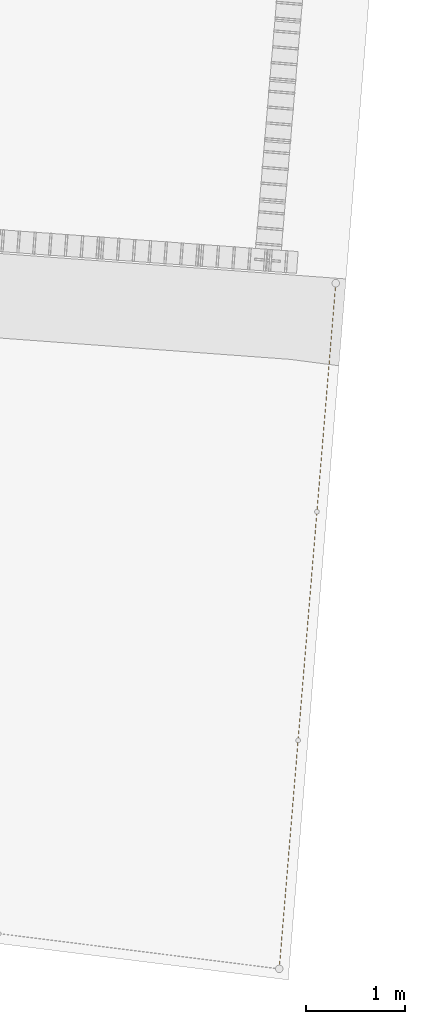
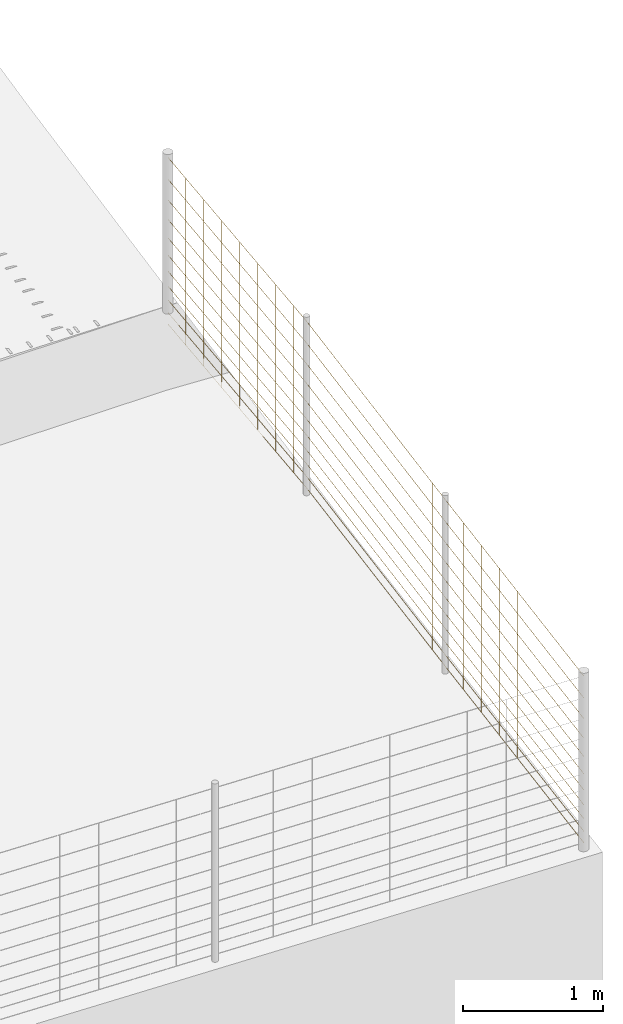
# Not in any storey, part 50 of 72: 3 railings.
"""IFC4 model written with IfcOpenShell, lengths in metres."""

from ifc_helpers import new_model, si_unit, direction, frame, origin_with_axes, place, context, subcontext, project, spatial, polygons, material, element, save


model = new_model("IFC4")

# Units and contexts
model_context = context("Model", 3, precision=1e-05, world=origin_with_axes(), true_north=direction((0.0, 1.0)))
body_context = subcontext(model_context, "Body", "Model", "MODEL_VIEW")
ifc_project = project(units=[si_unit("VOLUMEUNIT", "CUBIC_METRE"), si_unit("LENGTHUNIT", "METRE"), si_unit("AREAUNIT", "SQUARE_METRE")], contexts=[model_context])

# Site
site_placement = place(None, origin_with_axes())
site = spatial("IfcSite", under=ifc_project, at=site_placement, Name="Lares · Rua das Mercês · artigo 4771")

# Railings
ifc_material = material(Name="Aço galvanizado / Stahl verzinkt", Category="steel")
railing_1_placement = place(site_placement, frame((0.0, 0.0, 0.0), z_axis=(0.0, 0.0, 1.0), x_axis=(1.0, -1.03767253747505e-17, 0.0)))
element("IfcRailing", 1, at=railing_1_placement, inside=site, material=ifc_material, Name="Vedação · rede ovelheira 1.001", ObjectType="SHEEP_WIRE_FENCE", PredefinedType="USERDEFINED", context=body_context, shape_type="Tessellation", body=[
    polygons([(83.1766969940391, 0.466070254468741, 16.024139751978), (83.1781898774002, 0.465922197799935, 16.0226399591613), (83.1796868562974, 0.465823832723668, 16.024139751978), (83.1781939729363, 0.465971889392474, 16.0256395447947), (82.9867703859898, -1.83833026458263, 16.0625741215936), (82.9882632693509, -1.83847832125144, 16.0610743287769), (82.9897602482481, -1.83857668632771, 16.0625741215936), (82.988267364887, -1.8384286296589, 16.0640739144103), (83.1766969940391, 0.466070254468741, 16.124139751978), (83.1781898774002, 0.465922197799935, 16.1226399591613), (83.1796868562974, 0.465823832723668, 16.124139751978), (83.1781939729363, 0.465971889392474, 16.1256395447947), (82.9867703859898, -1.83833026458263, 16.1625741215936), (82.9882632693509, -1.83847832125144, 16.1610743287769), (82.9897602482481, -1.83857668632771, 16.1625741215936), (82.988267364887, -1.8384286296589, 16.1640739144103), (83.1766969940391, 0.466070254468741, 16.234139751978), (83.1781898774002, 0.465922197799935, 16.2326399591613), (83.1796868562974, 0.465823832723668, 16.234139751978), (83.1781939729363, 0.465971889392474, 16.2356395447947), (82.9867703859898, -1.83833026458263, 16.2725741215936), (82.9882632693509, -1.83847832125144, 16.2710743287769), (82.9897602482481, -1.83857668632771, 16.2725741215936), (82.988267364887, -1.8384286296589, 16.2740739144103), (83.1766969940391, 0.466070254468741, 16.354139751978), (83.1781898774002, 0.465922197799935, 16.3526399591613), (83.1796868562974, 0.465823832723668, 16.354139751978), (83.1781939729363, 0.465971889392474, 16.3556395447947), (82.9867703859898, -1.83833026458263, 16.3925741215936), (82.9882632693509, -1.83847832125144, 16.3910743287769), (82.9897602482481, -1.83857668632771, 16.3925741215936), (82.988267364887, -1.8384286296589, 16.3940739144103), (83.1766969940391, 0.466070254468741, 16.484139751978), (83.1781898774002, 0.465922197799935, 16.4826399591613), (83.1796868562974, 0.465823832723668, 16.484139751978), (83.1781939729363, 0.465971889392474, 16.4856395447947), (82.9867703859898, -1.83833026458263, 16.5225741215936), (82.9882632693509, -1.83847832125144, 16.5210743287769), (82.9897602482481, -1.83857668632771, 16.5225741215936), (82.988267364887, -1.8384286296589, 16.5240739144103), (83.1766969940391, 0.466070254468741, 16.624139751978), (83.1781898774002, 0.465922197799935, 16.6226399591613), (83.1796868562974, 0.465823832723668, 16.624139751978), (83.1781939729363, 0.465971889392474, 16.6256395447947), (82.9867703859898, -1.83833026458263, 16.6625741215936), (82.9882632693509, -1.83847832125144, 16.6610743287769), (82.9897602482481, -1.83857668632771, 16.6625741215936), (82.988267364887, -1.8384286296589, 16.6640739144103), (83.1766969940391, 0.466070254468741, 16.774139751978), (83.1781898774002, 0.465922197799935, 16.7726399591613), (83.1796868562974, 0.465823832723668, 16.774139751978), (83.1781939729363, 0.465971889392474, 16.7756395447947), (82.9867703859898, -1.83833026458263, 16.8125741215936), (82.9882632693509, -1.83847832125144, 16.8110743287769), (82.9897602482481, -1.83857668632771, 16.8125741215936), (82.988267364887, -1.8384286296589, 16.8140739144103), (83.1766969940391, 0.466070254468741, 16.934139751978), (83.1781898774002, 0.465922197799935, 16.9326399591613), (83.1796868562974, 0.465823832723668, 16.934139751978), (83.1781939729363, 0.465971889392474, 16.9356395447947), (82.9867703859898, -1.83833026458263, 16.9725741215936), (82.9882632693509, -1.83847832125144, 16.9710743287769), (82.9897602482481, -1.83857668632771, 16.9725741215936), (82.988267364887, -1.8384286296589, 16.9740739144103), (83.1766969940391, 0.466070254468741, 17.104139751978), (83.1781898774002, 0.465922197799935, 17.1026399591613), (83.1796868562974, 0.465823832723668, 17.104139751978), (83.1781939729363, 0.465971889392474, 17.1056395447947), (82.9867703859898, -1.83833026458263, 17.1425741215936), (82.9882632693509, -1.83847832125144, 17.1410743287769), (82.9897602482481, -1.83857668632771, 17.1425741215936), (82.988267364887, -1.8384286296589, 17.1440739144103), (83.1766969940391, 0.466070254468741, 17.284139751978), (83.1781898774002, 0.465922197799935, 17.2826399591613), (83.1796868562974, 0.465823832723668, 17.284139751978), (83.1781939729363, 0.465971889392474, 17.2856395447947), (82.9867703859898, -1.83833026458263, 17.3225741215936), (82.9882632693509, -1.83847832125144, 17.3210743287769), (82.9897602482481, -1.83857668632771, 17.3225741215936), (82.988267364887, -1.8384286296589, 17.3240739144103), (83.1766969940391, 0.466070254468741, 17.474139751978), (83.1781898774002, 0.465922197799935, 17.4726399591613), (83.1796868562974, 0.465823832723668, 17.474139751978), (83.1781939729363, 0.465971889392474, 17.4756395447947), (82.9867703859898, -1.83833026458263, 17.5125741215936), (82.9882632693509, -1.83847832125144, 17.5110743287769), (82.9897602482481, -1.83857668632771, 17.5125741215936), (82.988267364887, -1.8384286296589, 17.5140739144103), (83.153549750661, 0.168460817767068, 16.0291264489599), (83.152049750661, 0.166960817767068, 16.0291264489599), (83.153549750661, 0.165460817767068, 16.0291264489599), (83.155049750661, 0.166960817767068, 16.0291264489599), (83.153549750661, 0.168460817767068, 17.4791264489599), (83.152049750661, 0.166960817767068, 17.4791264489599), (83.153549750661, 0.165460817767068, 17.4791264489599), (83.155049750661, 0.166960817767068, 17.4791264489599), (83.1289075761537, -0.130525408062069, 16.0341131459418), (83.1274075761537, -0.132025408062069, 16.0341131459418), (83.1289075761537, -0.133525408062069, 16.0341131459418), (83.1304075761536, -0.132025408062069, 16.0341131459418), (83.1289075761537, -0.130525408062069, 17.4841131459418), (83.1274075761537, -0.132025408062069, 17.4841131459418), (83.1289075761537, -0.133525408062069, 17.4841131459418), (83.1304075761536, -0.132025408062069, 17.4841131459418), (83.1042654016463, -0.429511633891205, 16.0390998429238), (83.1027654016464, -0.431011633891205, 16.0390998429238), (83.1042654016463, -0.432511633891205, 16.0390998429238), (83.1057654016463, -0.431011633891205, 16.0390998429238), (83.1042654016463, -0.429511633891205, 17.4890998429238), (83.1027654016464, -0.431011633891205, 17.4890998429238), (83.1042654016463, -0.432511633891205, 17.4890998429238), (83.1057654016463, -0.431011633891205, 17.4890998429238), (83.079623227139, -0.728497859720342, 16.0440865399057), (83.078123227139, -0.729997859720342, 16.0440865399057), (83.079623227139, -0.731497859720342, 16.0440865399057), (83.081123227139, -0.729997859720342, 16.0440865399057), (83.079623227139, -0.728497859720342, 17.4940865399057), (83.078123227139, -0.729997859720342, 17.4940865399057), (83.079623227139, -0.731497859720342, 17.4940865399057), (83.081123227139, -0.729997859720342, 17.4940865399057), (83.0549810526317, -1.02748408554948, 16.0490732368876), (83.0534810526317, -1.02898408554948, 16.0490732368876), (83.0549810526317, -1.03048408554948, 16.0490732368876), (83.0564810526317, -1.02898408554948, 16.0490732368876), (83.0549810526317, -1.02748408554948, 17.4990732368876), (83.0534810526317, -1.02898408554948, 17.4990732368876), (83.0549810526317, -1.03048408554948, 17.4990732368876), (83.0564810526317, -1.02898408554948, 17.4990732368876), (83.0303388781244, -1.32647031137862, 16.0540599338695), (83.0288388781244, -1.32797031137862, 16.0540599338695), (83.0303388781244, -1.32947031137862, 16.0540599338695), (83.0318388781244, -1.32797031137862, 16.0540599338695), (83.0303388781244, -1.32647031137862, 17.5040599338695), (83.0288388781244, -1.32797031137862, 17.5040599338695), (83.0303388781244, -1.32947031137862, 17.5040599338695), (83.0318388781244, -1.32797031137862, 17.5040599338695), (83.0056967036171, -1.62545653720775, 16.0590466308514), (83.0041967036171, -1.62695653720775, 16.0590466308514), (83.0056967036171, -1.62845653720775, 16.0590466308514), (83.0071967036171, -1.62695653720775, 16.0590466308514), (83.0056967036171, -1.62545653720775, 17.5090466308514), (83.0041967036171, -1.62695653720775, 17.5090466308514), (83.0056967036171, -1.62845653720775, 17.5090466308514), (83.0071967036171, -1.62695653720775, 17.5090466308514)], [[[4, 3, 2, 1]], [[5, 6, 7, 8]], [[1, 2, 6, 5]], [[2, 3, 7, 6]], [[3, 4, 8, 7]], [[4, 1, 5, 8]], [[12, 11, 10, 9]], [[13, 14, 15, 16]], [[9, 10, 14, 13]], [[10, 11, 15, 14]], [[11, 12, 16, 15]], [[12, 9, 13, 16]], [[20, 19, 18, 17]], [[21, 22, 23, 24]], [[17, 18, 22, 21]], [[18, 19, 23, 22]], [[19, 20, 24, 23]], [[20, 17, 21, 24]], [[28, 27, 26, 25]], [[29, 30, 31, 32]], [[25, 26, 30, 29]], [[26, 27, 31, 30]], [[27, 28, 32, 31]], [[28, 25, 29, 32]], [[36, 35, 34, 33]], [[37, 38, 39, 40]], [[33, 34, 38, 37]], [[34, 35, 39, 38]], [[35, 36, 40, 39]], [[36, 33, 37, 40]], [[44, 43, 42, 41]], [[45, 46, 47, 48]], [[41, 42, 46, 45]], [[42, 43, 47, 46]], [[43, 44, 48, 47]], [[44, 41, 45, 48]], [[52, 51, 50, 49]], [[53, 54, 55, 56]], [[49, 50, 54, 53]], [[50, 51, 55, 54]], [[51, 52, 56, 55]], [[52, 49, 53, 56]], [[60, 59, 58, 57]], [[61, 62, 63, 64]], [[57, 58, 62, 61]], [[58, 59, 63, 62]], [[59, 60, 64, 63]], [[60, 57, 61, 64]], [[68, 67, 66, 65]], [[69, 70, 71, 72]], [[65, 66, 70, 69]], [[66, 67, 71, 70]], [[67, 68, 72, 71]], [[68, 65, 69, 72]], [[76, 75, 74, 73]], [[77, 78, 79, 80]], [[73, 74, 78, 77]], [[74, 75, 79, 78]], [[75, 76, 80, 79]], [[76, 73, 77, 80]], [[84, 83, 82, 81]], [[85, 86, 87, 88]], [[81, 82, 86, 85]], [[82, 83, 87, 86]], [[83, 84, 88, 87]], [[84, 81, 85, 88]], [[92, 91, 90, 89]], [[93, 94, 95, 96]], [[89, 90, 94, 93]], [[90, 91, 95, 94]], [[91, 92, 96, 95]], [[92, 89, 93, 96]], [[100, 99, 98, 97]], [[101, 102, 103, 104]], [[97, 98, 102, 101]], [[98, 99, 103, 102]], [[99, 100, 104, 103]], [[100, 97, 101, 104]], [[108, 107, 106, 105]], [[109, 110, 111, 112]], [[105, 106, 110, 109]], [[106, 107, 111, 110]], [[107, 108, 112, 111]], [[108, 105, 109, 112]], [[116, 115, 114, 113]], [[117, 118, 119, 120]], [[113, 114, 118, 117]], [[114, 115, 119, 118]], [[115, 116, 120, 119]], [[116, 113, 117, 120]], [[124, 123, 122, 121]], [[125, 126, 127, 128]], [[121, 122, 126, 125]], [[122, 123, 127, 126]], [[123, 124, 128, 127]], [[124, 121, 125, 128]], [[132, 131, 130, 129]], [[133, 134, 135, 136]], [[129, 130, 134, 133]], [[130, 131, 135, 134]], [[131, 132, 136, 135]], [[132, 129, 133, 136]], [[140, 139, 138, 137]], [[141, 142, 143, 144]], [[137, 138, 142, 141]], [[138, 139, 143, 142]], [[139, 140, 144, 143]], [[140, 137, 141, 144]]]),
])
railing_2_placement = place(site_placement, frame((0.0, 0.0, 0.0), z_axis=(0.0, 0.0, 1.0), x_axis=(1.0, -1.03767253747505e-17, 0.0)))
element("IfcRailing", 2, at=railing_2_placement, inside=site, material=ifc_material, Name="Vedação · rede ovelheira 1.002", ObjectType="SHEEP_WIRE_FENCE", PredefinedType="USERDEFINED", context=body_context, shape_type="Tessellation", body=[
    polygons([(82.9867703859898, -1.83833026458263, 16.0625741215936), (82.9882699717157, -1.8383970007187, 16.0610751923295), (82.9897602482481, -1.83857668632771, 16.0625741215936), (82.9882606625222, -1.83850995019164, 16.0640730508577), (82.7968437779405, -4.14273078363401, 15.9751620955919), (82.7983433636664, -4.14279751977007, 15.9736631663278), (82.7998336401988, -4.14297720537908, 15.9751620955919), (82.7983340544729, -4.14291046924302, 15.9766610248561), (82.9867703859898, -1.83833026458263, 16.1625741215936), (82.9882699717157, -1.8383970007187, 16.1610751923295), (82.9897602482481, -1.83857668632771, 16.1625741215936), (82.9882606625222, -1.83850995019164, 16.1640730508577), (82.7968437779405, -4.14273078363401, 16.0751620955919), (82.7983433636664, -4.14279751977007, 16.0736631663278), (82.7998336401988, -4.14297720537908, 16.0751620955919), (82.7983340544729, -4.14291046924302, 16.0766610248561), (82.9867703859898, -1.83833026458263, 16.2725741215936), (82.9882699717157, -1.8383970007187, 16.2710751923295), (82.9897602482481, -1.83857668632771, 16.2725741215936), (82.9882606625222, -1.83850995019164, 16.2740730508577), (82.7968437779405, -4.14273078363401, 16.1851620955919), (82.7983433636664, -4.14279751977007, 16.1836631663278), (82.7998336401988, -4.14297720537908, 16.1851620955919), (82.7983340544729, -4.14291046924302, 16.1866610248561), (82.9867703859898, -1.83833026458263, 16.3925741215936), (82.9882699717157, -1.8383970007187, 16.3910751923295), (82.9897602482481, -1.83857668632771, 16.3925741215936), (82.9882606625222, -1.83850995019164, 16.3940730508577), (82.7968437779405, -4.14273078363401, 16.3051620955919), (82.7983433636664, -4.14279751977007, 16.3036631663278), (82.7998336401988, -4.14297720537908, 16.3051620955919), (82.7983340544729, -4.14291046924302, 16.3066610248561), (82.9867703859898, -1.83833026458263, 16.5225741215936), (82.9882699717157, -1.8383970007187, 16.5210751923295), (82.9897602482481, -1.83857668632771, 16.5225741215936), (82.9882606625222, -1.83850995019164, 16.5240730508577), (82.7968437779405, -4.14273078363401, 16.4351620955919), (82.7983433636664, -4.14279751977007, 16.4336631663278), (82.7998336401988, -4.14297720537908, 16.4351620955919), (82.7983340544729, -4.14291046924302, 16.4366610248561), (82.9867703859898, -1.83833026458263, 16.6625741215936), (82.9882699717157, -1.8383970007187, 16.6610751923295), (82.9897602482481, -1.83857668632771, 16.6625741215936), (82.9882606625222, -1.83850995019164, 16.6640730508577), (82.7968437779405, -4.14273078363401, 16.5751620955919), (82.7983433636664, -4.14279751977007, 16.5736631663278), (82.7998336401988, -4.14297720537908, 16.5751620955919), (82.7983340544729, -4.14291046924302, 16.5766610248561), (82.9867703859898, -1.83833026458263, 16.8125741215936), (82.9882699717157, -1.8383970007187, 16.8110751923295), (82.9897602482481, -1.83857668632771, 16.8125741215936), (82.9882606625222, -1.83850995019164, 16.8140730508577), (82.7968437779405, -4.14273078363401, 16.7251620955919), (82.7983433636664, -4.14279751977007, 16.7236631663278), (82.7998336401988, -4.14297720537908, 16.7251620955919), (82.7983340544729, -4.14291046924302, 16.7266610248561), (82.9867703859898, -1.83833026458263, 16.9725741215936), (82.9882699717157, -1.8383970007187, 16.9710751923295), (82.9897602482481, -1.83857668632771, 16.9725741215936), (82.9882606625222, -1.83850995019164, 16.9740730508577), (82.7968437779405, -4.14273078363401, 16.8851620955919), (82.7983433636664, -4.14279751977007, 16.8836631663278), (82.7998336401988, -4.14297720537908, 16.8851620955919), (82.7983340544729, -4.14291046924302, 16.8866610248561), (82.9867703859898, -1.83833026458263, 17.1425741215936), (82.9882699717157, -1.8383970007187, 17.1410751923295), (82.9897602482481, -1.83857668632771, 17.1425741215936), (82.9882606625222, -1.83850995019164, 17.1440730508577), (82.7968437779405, -4.14273078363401, 17.0551620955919), (82.7983433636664, -4.14279751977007, 17.0536631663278), (82.7998336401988, -4.14297720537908, 17.0551620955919), (82.7983340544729, -4.14291046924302, 17.0566610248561), (82.9867703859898, -1.83833026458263, 17.3225741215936), (82.9882699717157, -1.8383970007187, 17.3210751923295), (82.9897602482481, -1.83857668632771, 17.3225741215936), (82.9882606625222, -1.83850995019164, 17.3240730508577), (82.7968437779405, -4.14273078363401, 17.2351620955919), (82.7983433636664, -4.14279751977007, 17.2336631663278), (82.7998336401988, -4.14297720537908, 17.2351620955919), (82.7983340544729, -4.14291046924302, 17.2366610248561), (82.9867703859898, -1.83833026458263, 17.5125741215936), (82.9882699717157, -1.8383970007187, 17.5110751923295), (82.9897602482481, -1.83857668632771, 17.5125741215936), (82.9882606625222, -1.83850995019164, 17.5140730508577), (82.7968437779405, -4.14273078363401, 17.4251620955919), (82.7983433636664, -4.14279751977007, 17.4236631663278), (82.7998336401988, -4.14297720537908, 17.4251620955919), (82.7983340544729, -4.14291046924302, 17.4266610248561), (82.9636231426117, -2.13593970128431, 16.0512327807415), (82.9621231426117, -2.13743970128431, 16.0512327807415), (82.9636231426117, -2.13893970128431, 16.0512327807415), (82.9651231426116, -2.13743970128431, 16.0512327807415), (82.9636231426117, -2.13593970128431, 17.5012327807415), (82.9621231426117, -2.13743970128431, 17.5012327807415), (82.9636231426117, -2.13893970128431, 17.5012327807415), (82.9651231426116, -2.13743970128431, 17.5012327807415), (82.9389809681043, -2.43492592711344, 16.0398914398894), (82.9374809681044, -2.43642592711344, 16.0398914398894), (82.9389809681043, -2.43792592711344, 16.0398914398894), (82.9404809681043, -2.43642592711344, 16.0398914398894), (82.9389809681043, -2.43492592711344, 17.4898914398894), (82.9374809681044, -2.43642592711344, 17.4898914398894), (82.9389809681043, -2.43792592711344, 17.4898914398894), (82.9404809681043, -2.43642592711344, 17.4898914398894), (82.914338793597, -2.73391215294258, 16.0285500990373), (82.912838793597, -2.73541215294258, 16.0285500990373), (82.914338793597, -2.73691215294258, 16.0285500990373), (82.915838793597, -2.73541215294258, 16.0285500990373), (82.914338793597, -2.73391215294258, 17.4785500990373), (82.912838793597, -2.73541215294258, 17.4785500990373), (82.914338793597, -2.73691215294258, 17.4785500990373), (82.915838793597, -2.73541215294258, 17.4785500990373), (82.8896966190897, -3.03289837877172, 16.0172087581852), (82.8881966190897, -3.03439837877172, 16.0172087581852), (82.8896966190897, -3.03589837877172, 16.0172087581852), (82.8911966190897, -3.03439837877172, 16.0172087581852), (82.8896966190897, -3.03289837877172, 17.4672087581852), (82.8881966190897, -3.03439837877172, 17.4672087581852), (82.8896966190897, -3.03589837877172, 17.4672087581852), (82.8911966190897, -3.03439837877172, 17.4672087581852), (82.8650544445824, -3.33188460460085, 16.0058674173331), (82.8635544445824, -3.33338460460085, 16.0058674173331), (82.8650544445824, -3.33488460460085, 16.0058674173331), (82.8665544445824, -3.33338460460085, 16.0058674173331), (82.8650544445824, -3.33188460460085, 17.4558674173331), (82.8635544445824, -3.33338460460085, 17.4558674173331), (82.8650544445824, -3.33488460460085, 17.4558674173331), (82.8665544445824, -3.33338460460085, 17.4558674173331), (82.8404122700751, -3.63087083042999, 15.994526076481), (82.8389122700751, -3.63237083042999, 15.994526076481), (82.8404122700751, -3.63387083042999, 15.994526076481), (82.8419122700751, -3.63237083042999, 15.994526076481), (82.8404122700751, -3.63087083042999, 17.444526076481), (82.8389122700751, -3.63237083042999, 17.444526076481), (82.8404122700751, -3.63387083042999, 17.444526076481), (82.8419122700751, -3.63237083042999, 17.444526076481), (82.8157700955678, -3.92985705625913, 15.9831847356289), (82.8142700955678, -3.93135705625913, 15.9831847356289), (82.8157700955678, -3.93285705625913, 15.9831847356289), (82.8172700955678, -3.93135705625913, 15.9831847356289), (82.8157700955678, -3.92985705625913, 17.4331847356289), (82.8142700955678, -3.93135705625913, 17.4331847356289), (82.8157700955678, -3.93285705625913, 17.4331847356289), (82.8172700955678, -3.93135705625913, 17.4331847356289)], [[[4, 3, 2, 1]], [[5, 6, 7, 8]], [[1, 2, 6, 5]], [[2, 3, 7, 6]], [[3, 4, 8, 7]], [[4, 1, 5, 8]], [[12, 11, 10, 9]], [[13, 14, 15, 16]], [[9, 10, 14, 13]], [[10, 11, 15, 14]], [[11, 12, 16, 15]], [[12, 9, 13, 16]], [[20, 19, 18, 17]], [[21, 22, 23, 24]], [[17, 18, 22, 21]], [[18, 19, 23, 22]], [[19, 20, 24, 23]], [[20, 17, 21, 24]], [[28, 27, 26, 25]], [[29, 30, 31, 32]], [[25, 26, 30, 29]], [[26, 27, 31, 30]], [[27, 28, 32, 31]], [[28, 25, 29, 32]], [[36, 35, 34, 33]], [[37, 38, 39, 40]], [[33, 34, 38, 37]], [[34, 35, 39, 38]], [[35, 36, 40, 39]], [[36, 33, 37, 40]], [[44, 43, 42, 41]], [[45, 46, 47, 48]], [[41, 42, 46, 45]], [[42, 43, 47, 46]], [[43, 44, 48, 47]], [[44, 41, 45, 48]], [[52, 51, 50, 49]], [[53, 54, 55, 56]], [[49, 50, 54, 53]], [[50, 51, 55, 54]], [[51, 52, 56, 55]], [[52, 49, 53, 56]], [[60, 59, 58, 57]], [[61, 62, 63, 64]], [[57, 58, 62, 61]], [[58, 59, 63, 62]], [[59, 60, 64, 63]], [[60, 57, 61, 64]], [[68, 67, 66, 65]], [[69, 70, 71, 72]], [[65, 66, 70, 69]], [[66, 67, 71, 70]], [[67, 68, 72, 71]], [[68, 65, 69, 72]], [[76, 75, 74, 73]], [[77, 78, 79, 80]], [[73, 74, 78, 77]], [[74, 75, 79, 78]], [[75, 76, 80, 79]], [[76, 73, 77, 80]], [[84, 83, 82, 81]], [[85, 86, 87, 88]], [[81, 82, 86, 85]], [[82, 83, 87, 86]], [[83, 84, 88, 87]], [[84, 81, 85, 88]], [[92, 91, 90, 89]], [[93, 94, 95, 96]], [[89, 90, 94, 93]], [[90, 91, 95, 94]], [[91, 92, 96, 95]], [[92, 89, 93, 96]], [[100, 99, 98, 97]], [[101, 102, 103, 104]], [[97, 98, 102, 101]], [[98, 99, 103, 102]], [[99, 100, 104, 103]], [[100, 97, 101, 104]], [[108, 107, 106, 105]], [[109, 110, 111, 112]], [[105, 106, 110, 109]], [[106, 107, 111, 110]], [[107, 108, 112, 111]], [[108, 105, 109, 112]], [[116, 115, 114, 113]], [[117, 118, 119, 120]], [[113, 114, 118, 117]], [[114, 115, 119, 118]], [[115, 116, 120, 119]], [[116, 113, 117, 120]], [[124, 123, 122, 121]], [[125, 126, 127, 128]], [[121, 122, 126, 125]], [[122, 123, 127, 126]], [[123, 124, 128, 127]], [[124, 121, 125, 128]], [[132, 131, 130, 129]], [[133, 134, 135, 136]], [[129, 130, 134, 133]], [[130, 131, 135, 134]], [[131, 132, 136, 135]], [[132, 129, 133, 136]], [[140, 139, 138, 137]], [[141, 142, 143, 144]], [[137, 138, 142, 141]], [[138, 139, 143, 142]], [[139, 140, 144, 143]], [[140, 137, 141, 144]]]),
])
railing_3_placement = place(site_placement, frame((0.0, 0.0, 0.0), z_axis=(0.0, 0.0, 1.0), x_axis=(1.0, -1.03767253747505e-17, 0.0)))
element("IfcRailing", 3, at=railing_3_placement, inside=site, material=ifc_material, Name="Vedação · rede ovelheira 1.003", ObjectType="SHEEP_WIRE_FENCE", PredefinedType="USERDEFINED", context=body_context, shape_type="Tessellation", body=[
    polygons([(82.7968437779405, -4.14273078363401, 15.9751620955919), (82.7983425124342, -4.14280784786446, 15.9736628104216), (82.7998336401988, -4.14297720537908, 15.9751620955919), (82.7983349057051, -4.14290014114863, 15.9766613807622), (82.6069171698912, -6.44713130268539, 15.9037529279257), (82.6084159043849, -6.44720836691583, 15.9022536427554), (82.6099070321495, -6.44737772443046, 15.9037529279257), (82.6084082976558, -6.44730066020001, 15.905252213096), (82.7968437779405, -4.14273078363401, 16.0751620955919), (82.7983425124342, -4.14280784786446, 16.0736628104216), (82.7998336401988, -4.14297720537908, 16.0751620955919), (82.7983349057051, -4.14290014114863, 16.0766613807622), (82.6069171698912, -6.44713130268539, 16.0037529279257), (82.6084159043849, -6.44720836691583, 16.0022536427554), (82.6099070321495, -6.44737772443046, 16.0037529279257), (82.6084082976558, -6.44730066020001, 16.005252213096), (82.7968437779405, -4.14273078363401, 16.1851620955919), (82.7983425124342, -4.14280784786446, 16.1836628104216), (82.7998336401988, -4.14297720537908, 16.1851620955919), (82.7983349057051, -4.14290014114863, 16.1866613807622), (82.6069171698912, -6.44713130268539, 16.1137529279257), (82.6084159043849, -6.44720836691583, 16.1122536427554), (82.6099070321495, -6.44737772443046, 16.1137529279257), (82.6084082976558, -6.44730066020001, 16.115252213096), (82.7968437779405, -4.14273078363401, 16.3051620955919), (82.7983425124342, -4.14280784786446, 16.3036628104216), (82.7998336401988, -4.14297720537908, 16.3051620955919), (82.7983349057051, -4.14290014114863, 16.3066613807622), (82.6069171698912, -6.44713130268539, 16.2337529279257), (82.6084159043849, -6.44720836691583, 16.2322536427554), (82.6099070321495, -6.44737772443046, 16.2337529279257), (82.6084082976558, -6.44730066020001, 16.235252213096), (82.7968437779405, -4.14273078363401, 16.4351620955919), (82.7983425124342, -4.14280784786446, 16.4336628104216), (82.7998336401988, -4.14297720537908, 16.4351620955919), (82.7983349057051, -4.14290014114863, 16.4366613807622), (82.6069171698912, -6.44713130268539, 16.3637529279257), (82.6084159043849, -6.44720836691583, 16.3622536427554), (82.6099070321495, -6.44737772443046, 16.3637529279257), (82.6084082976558, -6.44730066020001, 16.365252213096), (82.7968437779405, -4.14273078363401, 16.5751620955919), (82.7983425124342, -4.14280784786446, 16.5736628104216), (82.7998336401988, -4.14297720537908, 16.5751620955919), (82.7983349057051, -4.14290014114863, 16.5766613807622), (82.6069171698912, -6.44713130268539, 16.5037529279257), (82.6084159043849, -6.44720836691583, 16.5022536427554), (82.6099070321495, -6.44737772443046, 16.5037529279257), (82.6084082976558, -6.44730066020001, 16.505252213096), (82.7968437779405, -4.14273078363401, 16.7251620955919), (82.7983425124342, -4.14280784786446, 16.7236628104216), (82.7998336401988, -4.14297720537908, 16.7251620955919), (82.7983349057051, -4.14290014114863, 16.7266613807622), (82.6069171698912, -6.44713130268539, 16.6537529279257), (82.6084159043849, -6.44720836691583, 16.6522536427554), (82.6099070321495, -6.44737772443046, 16.6537529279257), (82.6084082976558, -6.44730066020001, 16.655252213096), (82.7968437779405, -4.14273078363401, 16.8851620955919), (82.7983425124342, -4.14280784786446, 16.8836628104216), (82.7998336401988, -4.14297720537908, 16.8851620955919), (82.7983349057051, -4.14290014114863, 16.8866613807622), (82.6069171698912, -6.44713130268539, 16.8137529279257), (82.6084159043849, -6.44720836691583, 16.8122536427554), (82.6099070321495, -6.44737772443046, 16.8137529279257), (82.6084082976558, -6.44730066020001, 16.815252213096), (82.7968437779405, -4.14273078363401, 17.0551620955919), (82.7983425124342, -4.14280784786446, 17.0536628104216), (82.7998336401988, -4.14297720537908, 17.0551620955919), (82.7983349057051, -4.14290014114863, 17.0566613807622), (82.6069171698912, -6.44713130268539, 16.9837529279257), (82.6084159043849, -6.44720836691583, 16.9822536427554), (82.6099070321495, -6.44737772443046, 16.9837529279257), (82.6084082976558, -6.44730066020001, 16.985252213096), (82.7968437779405, -4.14273078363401, 17.2351620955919), (82.7983425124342, -4.14280784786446, 17.2336628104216), (82.7998336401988, -4.14297720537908, 17.2351620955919), (82.7983349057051, -4.14290014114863, 17.2366613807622), (82.6069171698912, -6.44713130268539, 17.1637529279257), (82.6084159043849, -6.44720836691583, 17.1622536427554), (82.6099070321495, -6.44737772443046, 17.1637529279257), (82.6084082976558, -6.44730066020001, 17.165252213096), (82.7968437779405, -4.14273078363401, 17.4251620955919), (82.7983425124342, -4.14280784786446, 17.4236628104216), (82.7998336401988, -4.14297720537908, 17.4251620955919), (82.7983349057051, -4.14290014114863, 17.4266613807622), (82.6069171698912, -6.44713130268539, 17.3537529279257), (82.6084159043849, -6.44720836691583, 17.3522536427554), (82.6099070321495, -6.44737772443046, 17.3537529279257), (82.6084082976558, -6.44730066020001, 17.355252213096), (82.7736965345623, -4.44034022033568, 15.9658970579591), (82.7721965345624, -4.44184022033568, 15.9658970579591), (82.7736965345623, -4.44334022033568, 15.9658970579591), (82.7751965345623, -4.44184022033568, 15.9658970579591), (82.7736965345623, -4.44034022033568, 17.4158970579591), (82.7721965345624, -4.44184022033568, 17.4158970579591), (82.7736965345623, -4.44334022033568, 17.4158970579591), (82.7751965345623, -4.44184022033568, 17.4158970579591), (82.749054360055, -4.73932644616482, 15.9566320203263), (82.747554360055, -4.74082644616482, 15.9566320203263), (82.749054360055, -4.74232644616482, 15.9566320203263), (82.750554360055, -4.74082644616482, 15.9566320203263), (82.749054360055, -4.73932644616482, 17.4066320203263), (82.747554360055, -4.74082644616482, 17.4066320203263), (82.749054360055, -4.74232644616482, 17.4066320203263), (82.750554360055, -4.74082644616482, 17.4066320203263), (82.7244121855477, -5.03831267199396, 15.9473669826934), (82.7229121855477, -5.03981267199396, 15.9473669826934), (82.7244121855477, -5.04131267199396, 15.9473669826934), (82.7259121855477, -5.03981267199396, 15.9473669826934), (82.7244121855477, -5.03831267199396, 17.3973669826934), (82.7229121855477, -5.03981267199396, 17.3973669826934), (82.7244121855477, -5.04131267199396, 17.3973669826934), (82.7259121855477, -5.03981267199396, 17.3973669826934), (82.6997700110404, -5.33729889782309, 15.9381019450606), (82.6982700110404, -5.33879889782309, 15.9381019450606), (82.6997700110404, -5.34029889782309, 15.9381019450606), (82.7012700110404, -5.33879889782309, 15.9381019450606), (82.6997700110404, -5.33729889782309, 17.3881019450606), (82.6982700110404, -5.33879889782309, 17.3881019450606), (82.6997700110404, -5.34029889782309, 17.3881019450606), (82.7012700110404, -5.33879889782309, 17.3881019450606), (82.6751278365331, -5.63628512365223, 15.9288369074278), (82.6736278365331, -5.63778512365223, 15.9288369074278), (82.6751278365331, -5.63928512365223, 15.9288369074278), (82.6766278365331, -5.63778512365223, 15.9288369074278), (82.6751278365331, -5.63628512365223, 17.3788369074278), (82.6736278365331, -5.63778512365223, 17.3788369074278), (82.6751278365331, -5.63928512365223, 17.3788369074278), (82.6766278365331, -5.63778512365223, 17.3788369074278), (82.6504856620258, -5.93527134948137, 15.919571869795), (82.6489856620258, -5.93677134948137, 15.919571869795), (82.6504856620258, -5.93827134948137, 15.919571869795), (82.6519856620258, -5.93677134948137, 15.919571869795), (82.6504856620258, -5.93527134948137, 17.369571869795), (82.6489856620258, -5.93677134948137, 17.369571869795), (82.6504856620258, -5.93827134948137, 17.369571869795), (82.6519856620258, -5.93677134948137, 17.369571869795), (82.6258434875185, -6.2342575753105, 15.9103068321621), (82.6243434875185, -6.2357575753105, 15.9103068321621), (82.6258434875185, -6.2372575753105, 15.9103068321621), (82.6273434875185, -6.2357575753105, 15.9103068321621), (82.6258434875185, -6.2342575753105, 17.3603068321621), (82.6243434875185, -6.2357575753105, 17.3603068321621), (82.6258434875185, -6.2372575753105, 17.3603068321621), (82.6273434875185, -6.2357575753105, 17.3603068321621)], [[[4, 3, 2, 1]], [[5, 6, 7, 8]], [[1, 2, 6, 5]], [[2, 3, 7, 6]], [[3, 4, 8, 7]], [[4, 1, 5, 8]], [[12, 11, 10, 9]], [[13, 14, 15, 16]], [[9, 10, 14, 13]], [[10, 11, 15, 14]], [[11, 12, 16, 15]], [[12, 9, 13, 16]], [[20, 19, 18, 17]], [[21, 22, 23, 24]], [[17, 18, 22, 21]], [[18, 19, 23, 22]], [[19, 20, 24, 23]], [[20, 17, 21, 24]], [[28, 27, 26, 25]], [[29, 30, 31, 32]], [[25, 26, 30, 29]], [[26, 27, 31, 30]], [[27, 28, 32, 31]], [[28, 25, 29, 32]], [[36, 35, 34, 33]], [[37, 38, 39, 40]], [[33, 34, 38, 37]], [[34, 35, 39, 38]], [[35, 36, 40, 39]], [[36, 33, 37, 40]], [[44, 43, 42, 41]], [[45, 46, 47, 48]], [[41, 42, 46, 45]], [[42, 43, 47, 46]], [[43, 44, 48, 47]], [[44, 41, 45, 48]], [[52, 51, 50, 49]], [[53, 54, 55, 56]], [[49, 50, 54, 53]], [[50, 51, 55, 54]], [[51, 52, 56, 55]], [[52, 49, 53, 56]], [[60, 59, 58, 57]], [[61, 62, 63, 64]], [[57, 58, 62, 61]], [[58, 59, 63, 62]], [[59, 60, 64, 63]], [[60, 57, 61, 64]], [[68, 67, 66, 65]], [[69, 70, 71, 72]], [[65, 66, 70, 69]], [[66, 67, 71, 70]], [[67, 68, 72, 71]], [[68, 65, 69, 72]], [[76, 75, 74, 73]], [[77, 78, 79, 80]], [[73, 74, 78, 77]], [[74, 75, 79, 78]], [[75, 76, 80, 79]], [[76, 73, 77, 80]], [[84, 83, 82, 81]], [[85, 86, 87, 88]], [[81, 82, 86, 85]], [[82, 83, 87, 86]], [[83, 84, 88, 87]], [[84, 81, 85, 88]], [[92, 91, 90, 89]], [[93, 94, 95, 96]], [[89, 90, 94, 93]], [[90, 91, 95, 94]], [[91, 92, 96, 95]], [[92, 89, 93, 96]], [[100, 99, 98, 97]], [[101, 102, 103, 104]], [[97, 98, 102, 101]], [[98, 99, 103, 102]], [[99, 100, 104, 103]], [[100, 97, 101, 104]], [[108, 107, 106, 105]], [[109, 110, 111, 112]], [[105, 106, 110, 109]], [[106, 107, 111, 110]], [[107, 108, 112, 111]], [[108, 105, 109, 112]], [[116, 115, 114, 113]], [[117, 118, 119, 120]], [[113, 114, 118, 117]], [[114, 115, 119, 118]], [[115, 116, 120, 119]], [[116, 113, 117, 120]], [[124, 123, 122, 121]], [[125, 126, 127, 128]], [[121, 122, 126, 125]], [[122, 123, 127, 126]], [[123, 124, 128, 127]], [[124, 121, 125, 128]], [[132, 131, 130, 129]], [[133, 134, 135, 136]], [[129, 130, 134, 133]], [[130, 131, 135, 134]], [[131, 132, 136, 135]], [[132, 129, 133, 136]], [[140, 139, 138, 137]], [[141, 142, 143, 144]], [[137, 138, 142, 141]], [[138, 139, 143, 142]], [[139, 140, 144, 143]], [[140, 137, 141, 144]]]),
])

save(model, "model.ifc")
